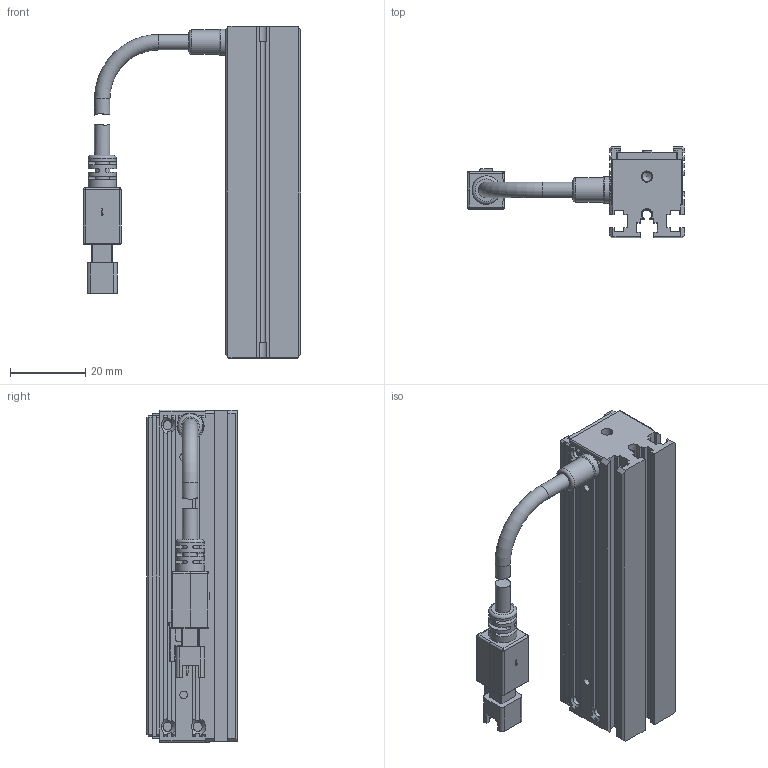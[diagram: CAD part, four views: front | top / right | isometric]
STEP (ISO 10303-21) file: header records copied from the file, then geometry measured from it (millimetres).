
FILE_DESCRIPTION (( 'STEP AP203' ), '1' );
FILE_NAME ('OPT-ULI8820-UV-V1.0U 尨砩芞.STEP', '2024-12-10T08:45:51', ( '' ), ( '' ), 'SwSTEP 2.0', 'SolidWorks 2016', '' );
FILE_SCHEMA (( 'CONFIG_CONTROL_DESIGN' ));
Length unit declared in the file: millimetre
Products named in the file (1): OPT-ULI8820-UV-V1.0U 尨砩芞
Bounding box: 57.6 x 24 x 88 mm (x, y, z)
Volume: 36182.6 mm3; surface area: 18785.3 mm2
Topology: 6 solids, 16 shells, 626 faces, 1621 edges, 1045 vertices
Faces by surface type: plane 427, cylinder 140, cone 30, bspline 21, torus 8
Full cylindrical faces by diameter (mm): 1.1 x2, 1.4 x4, 1.6 x9, 2 x11, 2.4 x7, 2.5 x2, 2.6 x2, 3 x2, 3.5 x1, 4.1 x4, 6.5 x1, 7 x1, 7.5 x1
Entity records: 19056 total; most frequent: CARTESIAN_POINT 4369, ORIENTED_EDGE 3002, DIRECTION 2910, EDGE_CURVE 1501, VECTOR 1044, LINE 1044, VERTEX_POINT 1006, AXIS2_PLACEMENT_3D 933
